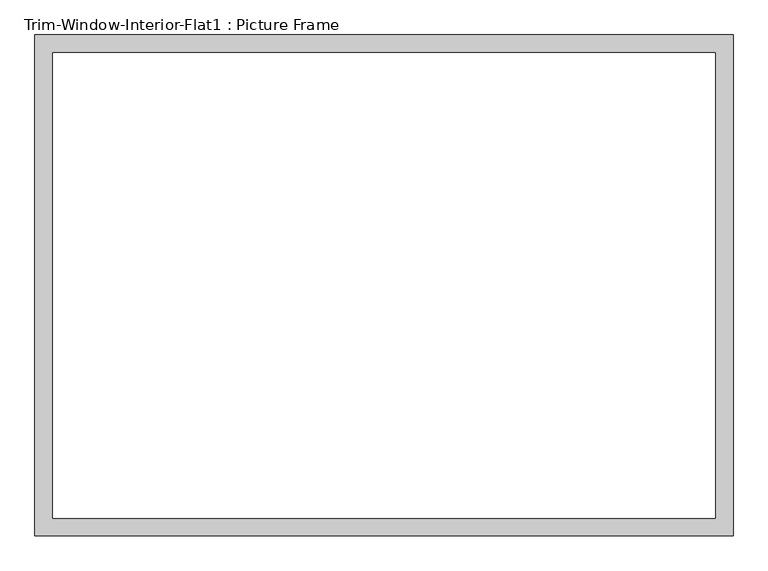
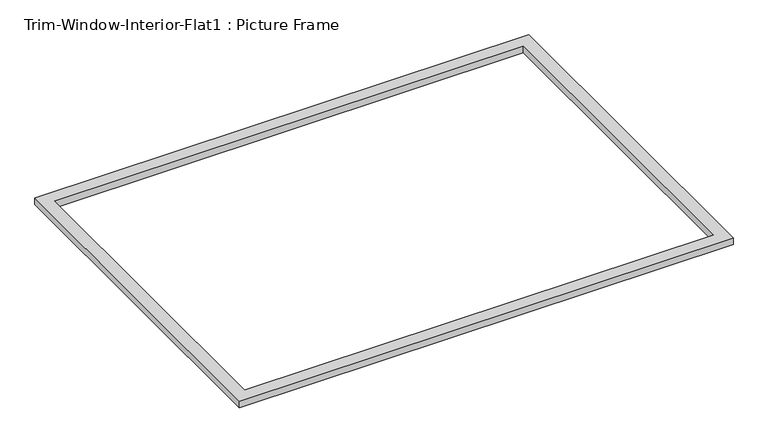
"""IFC4 building model written with IfcOpenShell, lengths in millimetres: proxy geometry, Trim-Window-Interior-Flat1 : Picture Frame."""

from ifc_helpers import new_model, si_unit, origin, origin_with_axes, place, context, project, spatial, polyline, outline, extrude, source, transform, mapped, element, save


def trim_window_interior_flat1_picture_frame_fb6b3cf3(model_context):
    return source(origin(), model_context, "Body", "SweptSolid", [
        extrude(outline(polyline([(1123.95, -44.45), (-1123.95, -44.45), (-1123.95, 1568.45), (1123.95, 1568.45), (1123.95, -44.45)]), holes=[polyline([(1066.8, 12.7), (1066.8, 1511.3), (-1066.8, 1511.3), (-1066.8, 12.7), (1066.8, 12.7)])]), origin_with_axes(), (0.0, 0.0, 1.0), 31.75),
    ])


if __name__ == "__main__":
    model = new_model("IFC4")
    model_context = context("Model", 3, world=origin())
    ifc_project = project(units=[si_unit("LENGTHUNIT", "METRE", prefix="MILLI")], contexts=[model_context])
    site = spatial("IfcSite", under=ifc_project)
    building = spatial("IfcBuilding", under=site)
    placement = place(None, origin())
    trim_window_interior_flat1_picture_frame_shape = trim_window_interior_flat1_picture_frame_fb6b3cf3(model_context)
    element("IfcBuildingElementProxy", 1, Name="Trim-Window-Interior-Flat1 : Picture Frame", ObjectType="Trim-Window-Interior-Flat1 : Picture Frame", at=placement, inside=building, context=model_context, shape_type="MappedRepresentation", body=[
        mapped(trim_window_interior_flat1_picture_frame_shape, transform((0.0, 0.0, 0.0), x_axis=(1.0, 0.0, 0.0), y_axis=(0.0, 1.0, 0.0), z_axis=(0.0, 0.0, 1.0))),
    ])
    save(model, "model.ifc")
